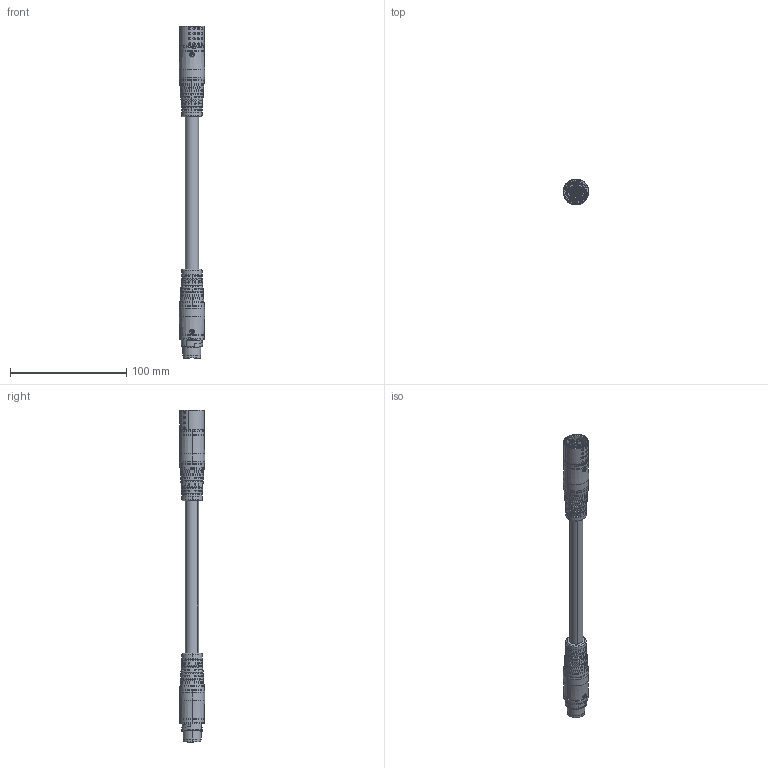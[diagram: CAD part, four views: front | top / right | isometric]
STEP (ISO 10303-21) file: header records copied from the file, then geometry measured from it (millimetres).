
FILE_DESCRIPTION (( 'STEP AP214' ), '1' );
FILE_NAME ('W-TEC 15K STI-BU 4x.STEP', '2021-06-04T11:54:19', ( '' ), ( '' ), 'SwSTEP 2.0', 'SolidWorks 2021', '' );
FILE_SCHEMA (( 'AUTOMOTIVE_DESIGN' ));
Length unit declared in the file: millimetre
Products named in the file (1): W-TEC 15K STI-BU 4x
Bounding box: 21.83 x 21.83 x 285.02 mm (x, y, z)
Surface area: 23101.5 mm2 (no closed solid volume)
Topology: 0 solids, 21 shells, 1784 faces, 4909 edges, 3099 vertices
Faces by surface type: bspline 693, plane 553, cylinder 392, cone 81, torus 61, sphere 4
Entity records: 110073 total; most frequent: CARTESIAN_POINT 52147, ORIENTED_EDGE 9368, DIRECTION 5981, EDGE_CURVE 4754, VERTEX_POINT 3099, AXIS2_PLACEMENT_3D 2271, B_SPLINE_CURVE_WITH_KNOTS 1932, EDGE_LOOP 1909
